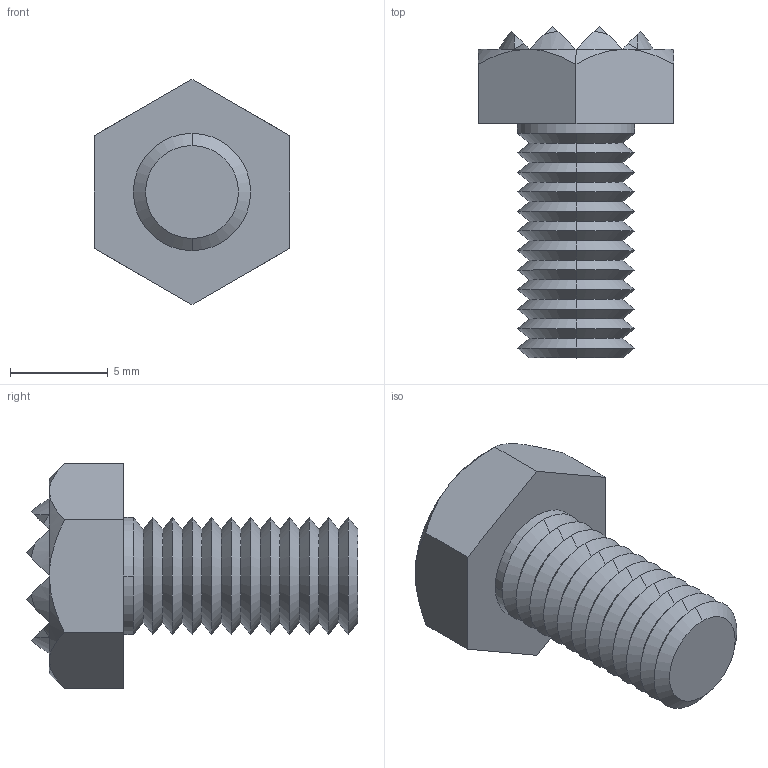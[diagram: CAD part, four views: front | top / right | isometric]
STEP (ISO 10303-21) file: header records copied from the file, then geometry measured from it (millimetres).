
FILE_DESCRIPTION (( 'STEP AP203' ), '1' );
FILE_NAME ('35400.W0001.step', '2017-07-03T07:19:56', ( 'User' ), ( '' ), 'SwSTEP 2.0', 'SolidWorks 2009', '' );
FILE_SCHEMA (( 'CONFIG_CONTROL_DESIGN' ));
Length unit declared in the file: millimetre
Products named in the file (1): 35400.W0001
Bounding box: 10 x 17 x 11.55 mm (x, y, z)
Volume: 621.7 mm3; surface area: 633.4 mm2
Topology: 1 solids, 1 shells, 124 faces, 236 edges, 116 vertices
Faces by surface type: cone 65, plane 57, cylinder 2
Entity records: 3088 total; most frequent: CARTESIAN_POINT 649, DIRECTION 513, ORIENTED_EDGE 472, EDGE_CURVE 236, AXIS2_PLACEMENT_3D 196, EDGE_LOOP 126, ADVANCED_FACE 124, FACE_OUTER_BOUND 124
